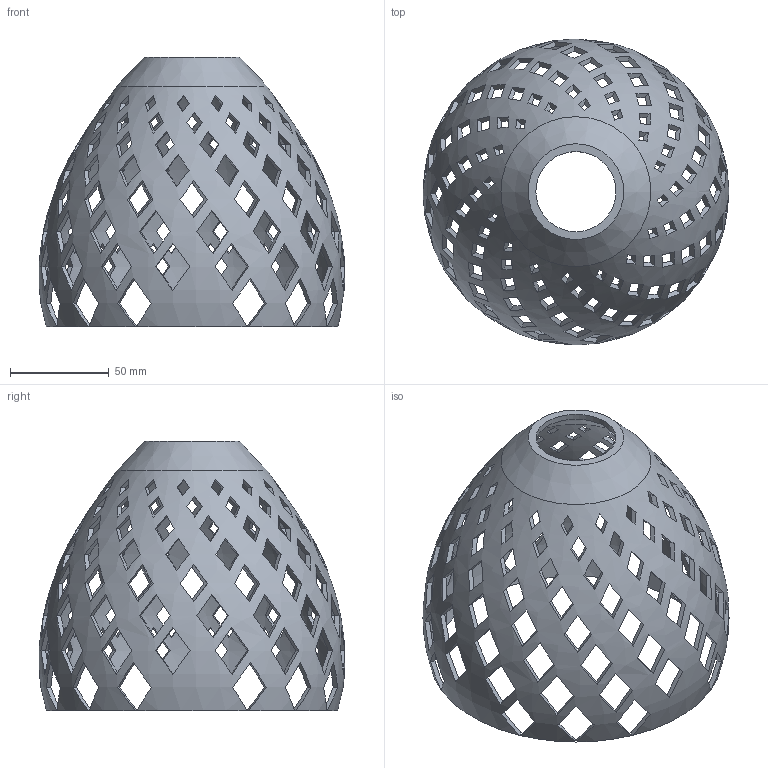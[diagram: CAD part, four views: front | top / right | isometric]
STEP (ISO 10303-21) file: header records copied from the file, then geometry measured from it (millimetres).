
FILE_DESCRIPTION(('Open CASCADE Model'),'2;1');
FILE_NAME('Open CASCADE Shape Model','2026-10-15T22:00:38',('Author'),( 'Open CASCADE'),'Open CASCADE STEP processor 7.9','Open CASCADE 7.9' ,'Unknown');
FILE_SCHEMA(('AUTOMOTIVE_DESIGN { 1 0 10303 214 1 1 1 1 }'));
Length unit declared in the file: millimetre
Products named in the file (1): Open CASCADE STEP translator 7.9 10
Bounding box: 155.04 x 154.95 x 136.7 mm (x, y, z)
Volume: 104895.1 mm3; surface area: 98815.2 mm2
Topology: 1 solids, 1 shells, 520 faces, 1562 edges, 1040 vertices
Faces by surface type: plane 515, revolution 2, cone 2, cylinder 1
Full cylindrical faces by diameter (mm): 40.6 x1
Entity records: 56436 total; most frequent: CARTESIAN_POINT 30882, ORIENTED_EDGE 3124, PCURVE 3124, DEFINITIONAL_REPRESENTATION 3124, B_SPLINE_CURVE_WITH_KNOTS 3084, DIRECTION 2673, EDGE_CURVE 1562, SURFACE_CURVE 1553
